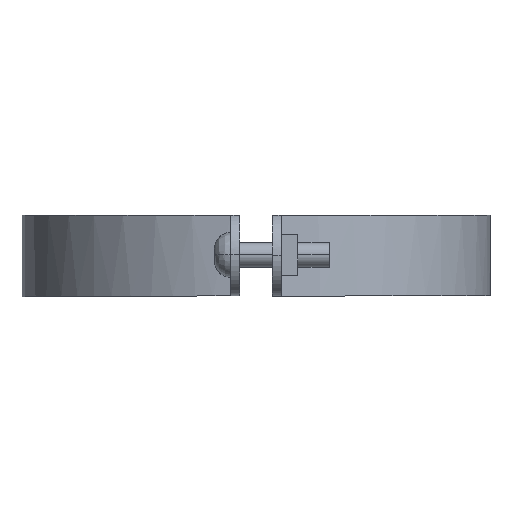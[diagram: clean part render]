
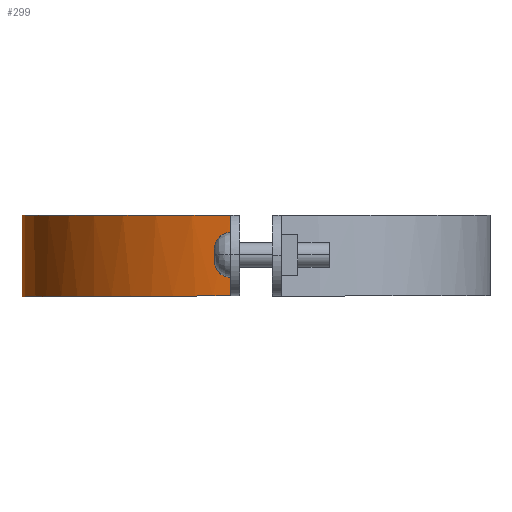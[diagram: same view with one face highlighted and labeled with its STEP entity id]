
A CAD part, left-side view. The second image highlights one B-rep face of the part: STEP entity #299.
In plain terms, the highlighted free-form (B-spline) face has degree [3, 1] with [4, 2] control points.
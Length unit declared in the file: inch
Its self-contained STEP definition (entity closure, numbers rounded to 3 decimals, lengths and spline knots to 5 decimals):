
#299=ADVANCED_FACE('',(#570),#571,.T.);
#570=FACE_OUTER_BOUND('',#1270,.T.);
#571=B_SPLINE_SURFACE_WITH_KNOTS('',3,1,((#1271,#1272),(#1273,#1274),(#1275,#1276),(#1277,#1278)),.UNSPECIFIED.,.F.,.F.,.F.,(4,4),(2,2),(-1.0,-0.0),(0.0,1.25),.UNSPECIFIED.);
#1270=EDGE_LOOP('',(#1892,#1893,#1894,#1895));
#1271=CARTESIAN_POINT('',(4.28139,6.62063,0.0));
#1272=CARTESIAN_POINT('',(4.28139,6.62063,1.25));
#1273=CARTESIAN_POINT('',(2.45764,6.62063,0.0));
#1274=CARTESIAN_POINT('',(2.45764,6.62063,1.25));
#1275=CARTESIAN_POINT('',(0.92676,5.24674,0.0));
#1276=CARTESIAN_POINT('',(0.92676,5.24674,1.25));
#1277=CARTESIAN_POINT('',(0.73023,3.43358,0.0));
#1278=CARTESIAN_POINT('',(0.73023,3.43358,1.25));
#1892=ORIENTED_EDGE('',*,*,#2125,.T.);
#1893=ORIENTED_EDGE('',*,*,#2116,.T.);
#1894=ORIENTED_EDGE('',*,*,#2188,.T.);
#1895=ORIENTED_EDGE('',*,*,#2148,.F.);
#2116=EDGE_CURVE('',#2457,#2464,#2466,.T.);
#2125=EDGE_CURVE('',#2472,#2457,#2478,.T.);
#2148=EDGE_CURVE('',#2472,#2511,#2512,.T.);
#2188=EDGE_CURVE('',#2464,#2511,#2565,.T.);
#2457=VERTEX_POINT('',#3074);
#2464=VERTEX_POINT('',#3088);
#2466=LINE('',#3091,#3092);
#2472=VERTEX_POINT('',#3102);
#2478=B_SPLINE_CURVE_WITH_KNOTS('',3,(#3112,#3113,#3114,#3115,#3116,#3117,#3118,#3119,#3120,#3121),.UNSPECIFIED.,.F.,.F.,(4,2,2,2,4),(-5.25237,-3.98494,-2.75827,-1.37907,-0.0),.UNSPECIFIED.);
#2511=VERTEX_POINT('',#3185);
#2512=LINE('',#3186,#3187);
#2565=B_SPLINE_CURVE_WITH_KNOTS('',3,(#3288,#3289,#3290,#3291),.UNSPECIFIED.,.F.,.F.,(4,4),(0.0,1.0),.UNSPECIFIED.);
#3074=CARTESIAN_POINT('',(0.73023,3.43358,0.01779));
#3088=CARTESIAN_POINT('',(0.73023,3.43358,1.25));
#3091=CARTESIAN_POINT('',(0.73023,3.43358,0.0));
#3092=VECTOR('',#3473,1.0);
#3102=CARTESIAN_POINT('',(4.28139,6.62063,0.00151));
#3112=CARTESIAN_POINT('',(4.28139,6.62063,0.00151));
#3113=CARTESIAN_POINT('',(3.85908,6.62063,0.00151));
#3114=CARTESIAN_POINT('',(3.44247,6.54696,0.00189));
#3115=CARTESIAN_POINT('',(2.66379,6.26001,0.00335));
#3116=CARTESIAN_POINT('',(2.30788,6.05386,0.00441));
#3117=CARTESIAN_POINT('',(1.64223,5.49891,0.00724));
#3118=CARTESIAN_POINT('',(1.34891,5.13986,0.00907));
#3119=CARTESIAN_POINT('',(0.91529,4.33095,0.01321));
#3120=CARTESIAN_POINT('',(0.77976,3.89059,0.01546));
#3121=CARTESIAN_POINT('',(0.73023,3.43358,0.01779));
#3185=CARTESIAN_POINT('',(4.28139,6.62063,1.25));
#3186=CARTESIAN_POINT('',(4.28139,6.62063,0.0));
#3187=VECTOR('',#3495,1.0);
#3288=CARTESIAN_POINT('',(0.73023,3.43358,1.25));
#3289=CARTESIAN_POINT('',(0.92676,5.24674,1.25));
#3290=CARTESIAN_POINT('',(2.45764,6.62063,1.25));
#3291=CARTESIAN_POINT('',(4.28139,6.62063,1.25));
#3473=DIRECTION('',(0.0,0.0,1.0));
#3495=DIRECTION('',(0.0,0.0,1.0));
